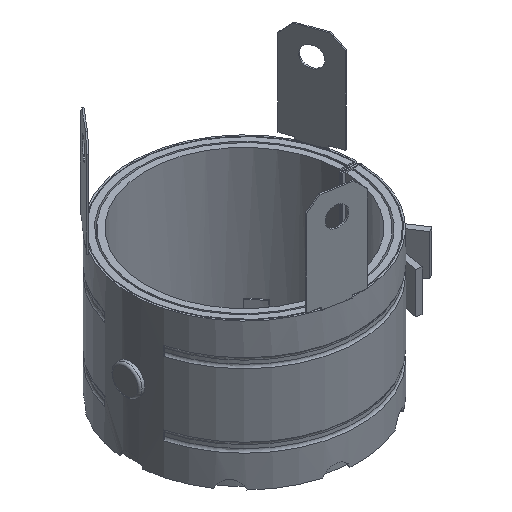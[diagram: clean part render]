
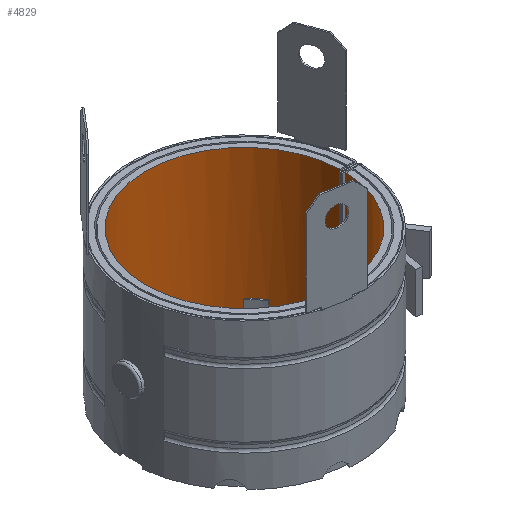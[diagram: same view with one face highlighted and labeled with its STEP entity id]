
A CAD part, isometric view. The second image highlights one B-rep face of the part: STEP entity #4829.
In plain terms, the highlighted cylindrical face has radius 33.75 mm (diameter 67.5 mm), a partial arc.
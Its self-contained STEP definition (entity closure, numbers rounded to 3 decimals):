
#222=LINE('',#7630,#624);
#229=LINE('',#7647,#631);
#624=VECTOR('',#6015,49.5);
#631=VECTOR('',#6034,49.5);
#1220=FACE_OUTER_BOUND('',#1495,.T.);
#1495=EDGE_LOOP('',(#3642,#3643,#3644,#3645,#3646,#3647,#3648,#3649,#3650,
#3651,#3652,#3653,#3654,#3655,#3656,#3657,#3658,#3659,#3660,#3661,#3662,
#3663));
#1714=CIRCLE('',#5143,33.75);
#1715=CIRCLE('',#5147,33.75);
#1717=CIRCLE('',#5151,33.75);
#1719=CIRCLE('',#5155,33.75);
#1721=CIRCLE('',#5159,33.75);
#1723=CIRCLE('',#5163,33.75);
#1725=CIRCLE('',#5167,33.75);
#1727=CIRCLE('',#5171,33.75);
#1729=CIRCLE('',#5175,33.75);
#1731=CIRCLE('',#5179,33.75);
#1743=CIRCLE('',#5194,33.75);
#1744=CIRCLE('',#5195,33.75);
#1745=CIRCLE('',#5196,33.75);
#1746=CIRCLE('',#5197,33.75);
#1747=CIRCLE('',#5198,33.75);
#1748=CIRCLE('',#5199,33.75);
#1749=CIRCLE('',#5200,33.75);
#1750=CIRCLE('',#5201,33.75);
#1751=CIRCLE('',#5202,33.75);
#1752=CIRCLE('',#5203,33.75);
#2075=VERTEX_POINT('',#7627);
#2076=VERTEX_POINT('',#7629);
#2078=VERTEX_POINT('',#7637);
#2080=VERTEX_POINT('',#7645);
#2081=VERTEX_POINT('',#7649);
#2082=VERTEX_POINT('',#7651);
#2085=VERTEX_POINT('',#7661);
#2086=VERTEX_POINT('',#7663);
#2089=VERTEX_POINT('',#7673);
#2090=VERTEX_POINT('',#7675);
#2093=VERTEX_POINT('',#7685);
#2094=VERTEX_POINT('',#7687);
#2097=VERTEX_POINT('',#7697);
#2098=VERTEX_POINT('',#7699);
#2101=VERTEX_POINT('',#7709);
#2102=VERTEX_POINT('',#7711);
#2105=VERTEX_POINT('',#7721);
#2106=VERTEX_POINT('',#7723);
#2109=VERTEX_POINT('',#7733);
#2110=VERTEX_POINT('',#7735);
#2113=VERTEX_POINT('',#7745);
#2114=VERTEX_POINT('',#7747);
#2607=EDGE_CURVE('',#2076,#2075,#222,.T.);
#2612=EDGE_CURVE('',#2075,#2078,#1714,.T.);
#2616=EDGE_CURVE('',#2080,#2078,#229,.T.);
#2618=EDGE_CURVE('',#2082,#2081,#1715,.T.);
#2624=EDGE_CURVE('',#2086,#2085,#1717,.T.);
#2630=EDGE_CURVE('',#2090,#2089,#1719,.T.);
#2636=EDGE_CURVE('',#2094,#2093,#1721,.T.);
#2642=EDGE_CURVE('',#2098,#2097,#1723,.T.);
#2648=EDGE_CURVE('',#2102,#2101,#1725,.T.);
#2654=EDGE_CURVE('',#2106,#2105,#1727,.T.);
#2660=EDGE_CURVE('',#2110,#2109,#1729,.T.);
#2666=EDGE_CURVE('',#2114,#2113,#1731,.T.);
#2681=EDGE_CURVE('',#2094,#2080,#1743,.T.);
#2682=EDGE_CURVE('',#2090,#2093,#1744,.T.);
#2683=EDGE_CURVE('',#2086,#2089,#1745,.T.);
#2684=EDGE_CURVE('',#2082,#2085,#1746,.T.);
#2685=EDGE_CURVE('',#2098,#2081,#1747,.T.);
#2686=EDGE_CURVE('',#2102,#2097,#1748,.T.);
#2687=EDGE_CURVE('',#2110,#2101,#1749,.T.);
#2688=EDGE_CURVE('',#2106,#2109,#1750,.T.);
#2689=EDGE_CURVE('',#2114,#2105,#1751,.T.);
#2690=EDGE_CURVE('',#2076,#2113,#1752,.T.);
#3642=ORIENTED_EDGE('',*,*,#2612,.T.);
#3643=ORIENTED_EDGE('',*,*,#2616,.F.);
#3644=ORIENTED_EDGE('',*,*,#2681,.F.);
#3645=ORIENTED_EDGE('',*,*,#2636,.T.);
#3646=ORIENTED_EDGE('',*,*,#2682,.F.);
#3647=ORIENTED_EDGE('',*,*,#2630,.T.);
#3648=ORIENTED_EDGE('',*,*,#2683,.F.);
#3649=ORIENTED_EDGE('',*,*,#2624,.T.);
#3650=ORIENTED_EDGE('',*,*,#2684,.F.);
#3651=ORIENTED_EDGE('',*,*,#2618,.T.);
#3652=ORIENTED_EDGE('',*,*,#2685,.F.);
#3653=ORIENTED_EDGE('',*,*,#2642,.T.);
#3654=ORIENTED_EDGE('',*,*,#2686,.F.);
#3655=ORIENTED_EDGE('',*,*,#2648,.T.);
#3656=ORIENTED_EDGE('',*,*,#2687,.F.);
#3657=ORIENTED_EDGE('',*,*,#2660,.T.);
#3658=ORIENTED_EDGE('',*,*,#2688,.F.);
#3659=ORIENTED_EDGE('',*,*,#2654,.T.);
#3660=ORIENTED_EDGE('',*,*,#2689,.F.);
#3661=ORIENTED_EDGE('',*,*,#2666,.T.);
#3662=ORIENTED_EDGE('',*,*,#2690,.F.);
#3663=ORIENTED_EDGE('',*,*,#2607,.T.);
#4421=CYLINDRICAL_SURFACE('',#5193,33.75);
#4829=ADVANCED_FACE('',(#1220),#4421,.F.);
#5143=AXIS2_PLACEMENT_3D('',#7639,#6025,#6026);
#5147=AXIS2_PLACEMENT_3D('',#7652,#6038,#6039);
#5151=AXIS2_PLACEMENT_3D('',#7664,#6050,#6051);
#5155=AXIS2_PLACEMENT_3D('',#7676,#6062,#6063);
#5159=AXIS2_PLACEMENT_3D('',#7688,#6074,#6075);
#5163=AXIS2_PLACEMENT_3D('',#7700,#6086,#6087);
#5167=AXIS2_PLACEMENT_3D('',#7712,#6098,#6099);
#5171=AXIS2_PLACEMENT_3D('',#7724,#6110,#6111);
#5175=AXIS2_PLACEMENT_3D('',#7736,#6122,#6123);
#5179=AXIS2_PLACEMENT_3D('',#7748,#6134,#6135);
#5193=AXIS2_PLACEMENT_3D('',#7767,#6165,#6166);
#5194=AXIS2_PLACEMENT_3D('',#7768,#6167,#6168);
#5195=AXIS2_PLACEMENT_3D('',#7769,#6169,#6170);
#5196=AXIS2_PLACEMENT_3D('',#7770,#6171,#6172);
#5197=AXIS2_PLACEMENT_3D('',#7771,#6173,#6174);
#5198=AXIS2_PLACEMENT_3D('',#7772,#6175,#6176);
#5199=AXIS2_PLACEMENT_3D('',#7773,#6177,#6178);
#5200=AXIS2_PLACEMENT_3D('',#7774,#6179,#6180);
#5201=AXIS2_PLACEMENT_3D('',#7775,#6181,#6182);
#5202=AXIS2_PLACEMENT_3D('',#7776,#6183,#6184);
#5203=AXIS2_PLACEMENT_3D('',#7777,#6185,#6186);
#6015=DIRECTION('',(0.,0.,1.));
#6025=DIRECTION('center_axis',(0.,0.,1.));
#6026=DIRECTION('ref_axis',(-1.,-0.03,0.));
#6034=DIRECTION('',(0.,0.,1.));
#6038=DIRECTION('center_axis',(0.,0.,-1.));
#6039=DIRECTION('ref_axis',(-1.,-0.03,0.));
#6050=DIRECTION('center_axis',(0.,0.,-1.));
#6051=DIRECTION('ref_axis',(-1.,-0.03,0.));
#6062=DIRECTION('center_axis',(0.,0.,-1.));
#6063=DIRECTION('ref_axis',(-1.,-0.03,0.));
#6074=DIRECTION('center_axis',(0.,0.,-1.));
#6075=DIRECTION('ref_axis',(-1.,-0.03,0.));
#6086=DIRECTION('center_axis',(0.,0.,-1.));
#6087=DIRECTION('ref_axis',(-1.,-0.03,0.));
#6098=DIRECTION('center_axis',(0.,0.,-1.));
#6099=DIRECTION('ref_axis',(-1.,-0.03,0.));
#6110=DIRECTION('center_axis',(0.,0.,-1.));
#6111=DIRECTION('ref_axis',(-1.,-0.03,0.));
#6122=DIRECTION('center_axis',(0.,0.,-1.));
#6123=DIRECTION('ref_axis',(-1.,-0.03,0.));
#6134=DIRECTION('center_axis',(0.,0.,-1.));
#6135=DIRECTION('ref_axis',(-1.,-0.03,0.));
#6165=DIRECTION('center_axis',(0.,0.,1.));
#6166=DIRECTION('ref_axis',(-1.,-0.03,0.));
#6167=DIRECTION('center_axis',(0.,0.,1.));
#6168=DIRECTION('ref_axis',(-1.,-0.03,0.));
#6169=DIRECTION('center_axis',(0.,0.,1.));
#6170=DIRECTION('ref_axis',(-1.,-0.03,0.));
#6171=DIRECTION('center_axis',(0.,0.,1.));
#6172=DIRECTION('ref_axis',(-1.,-0.03,0.));
#6173=DIRECTION('center_axis',(0.,0.,1.));
#6174=DIRECTION('ref_axis',(-1.,-0.03,0.));
#6175=DIRECTION('center_axis',(0.,0.,1.));
#6176=DIRECTION('ref_axis',(-1.,-0.03,0.));
#6177=DIRECTION('center_axis',(0.,0.,1.));
#6178=DIRECTION('ref_axis',(-1.,-0.03,0.));
#6179=DIRECTION('center_axis',(0.,0.,1.));
#6180=DIRECTION('ref_axis',(-1.,-0.03,0.));
#6181=DIRECTION('center_axis',(0.,0.,1.));
#6182=DIRECTION('ref_axis',(-1.,-0.03,0.));
#6183=DIRECTION('center_axis',(0.,0.,1.));
#6184=DIRECTION('ref_axis',(-1.,-0.03,0.));
#6185=DIRECTION('center_axis',(0.,0.,1.));
#6186=DIRECTION('ref_axis',(-1.,-0.03,0.));
#7627=CARTESIAN_POINT('',(33.735,1.,25.));
#7629=CARTESIAN_POINT('',(33.735,1.,-24.5));
#7630=CARTESIAN_POINT('',(33.735,1.,-24.5));
#7637=CARTESIAN_POINT('',(33.735,-1.,25.));
#7639=CARTESIAN_POINT('Origin',(0.,0.,25.));
#7645=CARTESIAN_POINT('',(33.735,-1.,-24.5));
#7647=CARTESIAN_POINT('',(33.735,-1.,-24.5));
#7649=CARTESIAN_POINT('',(-28.143,-18.629,-24.5));
#7651=CARTESIAN_POINT('',(-23.233,-24.48,-24.5));
#7652=CARTESIAN_POINT('Origin',(0.,0.,-24.5));
#7661=CARTESIAN_POINT('',(-9.584,-32.361,-24.5));
#7663=CARTESIAN_POINT('',(-2.062,-33.687,-24.5));
#7664=CARTESIAN_POINT('Origin',(0.,0.,-24.5));
#7673=CARTESIAN_POINT('',(13.459,-30.95,-24.5));
#7675=CARTESIAN_POINT('',(20.074,-27.131,-24.5));
#7676=CARTESIAN_POINT('Origin',(0.,0.,-24.5));
#7685=CARTESIAN_POINT('',(30.205,-15.058,-24.5));
#7687=CARTESIAN_POINT('',(32.817,-7.881,-24.5));
#7688=CARTESIAN_POINT('Origin',(0.,0.,-24.5));
#7697=CARTESIAN_POINT('',(-33.533,3.819,-24.5));
#7699=CARTESIAN_POINT('',(-33.533,-3.819,-24.5));
#7700=CARTESIAN_POINT('Origin',(0.,0.,-24.5));
#7709=CARTESIAN_POINT('',(-23.233,24.48,-24.5));
#7711=CARTESIAN_POINT('',(-28.143,18.629,-24.5));
#7712=CARTESIAN_POINT('Origin',(0.,0.,-24.5));
#7721=CARTESIAN_POINT('',(20.074,27.131,-24.5));
#7723=CARTESIAN_POINT('',(13.459,30.95,-24.5));
#7724=CARTESIAN_POINT('Origin',(0.,0.,-24.5));
#7733=CARTESIAN_POINT('',(-2.062,33.687,-24.5));
#7735=CARTESIAN_POINT('',(-9.584,32.361,-24.5));
#7736=CARTESIAN_POINT('Origin',(0.,0.,-24.5));
#7745=CARTESIAN_POINT('',(32.817,7.881,-24.5));
#7747=CARTESIAN_POINT('',(30.205,15.058,-24.5));
#7748=CARTESIAN_POINT('Origin',(0.,0.,-24.5));
#7767=CARTESIAN_POINT('Origin',(0.,0.,-24.5));
#7768=CARTESIAN_POINT('Origin',(0.,0.,-24.5));
#7769=CARTESIAN_POINT('Origin',(0.,0.,-24.5));
#7770=CARTESIAN_POINT('Origin',(0.,0.,-24.5));
#7771=CARTESIAN_POINT('Origin',(0.,0.,-24.5));
#7772=CARTESIAN_POINT('Origin',(0.,0.,-24.5));
#7773=CARTESIAN_POINT('Origin',(0.,0.,-24.5));
#7774=CARTESIAN_POINT('Origin',(0.,0.,-24.5));
#7775=CARTESIAN_POINT('Origin',(0.,0.,-24.5));
#7776=CARTESIAN_POINT('Origin',(0.,0.,-24.5));
#7777=CARTESIAN_POINT('Origin',(0.,0.,-24.5));
